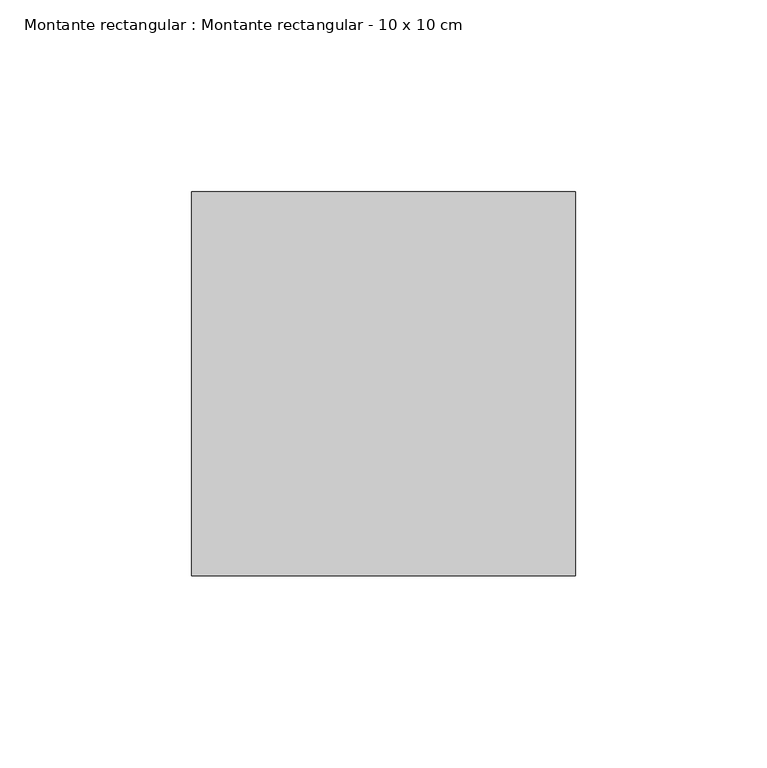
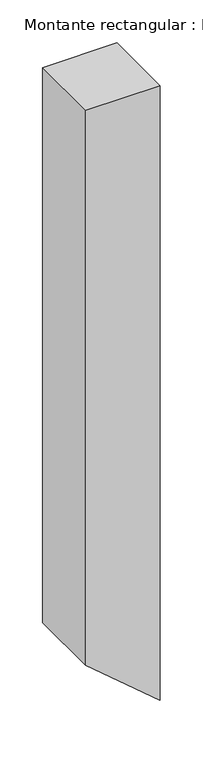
"""IFC4 building model written with IfcOpenShell, lengths in millimetres: member geometry, Montante rectangular : Montante rectangular - 10 x 10 cm."""

from ifc_helpers import new_model, si_unit, frame, origin, place, context, project, spatial, polyline, outline, extrude, source, transform, mapped, element, save


def montante_rectangular_montante_rectangular_10_x_10_cm_8c97cb68(model_context):
    return source(origin(), model_context, "Body", "SweptSolid", [
        extrude(outline(polyline([(0.0, 0.0), (0.0, -100.0), (-789.8805279, -100.0), (-875.0, 0.0), (0.0, 0.0)])), frame((0.0, -50.0, 0.0), z_axis=(0.0, 1.0, 0.0), x_axis=(0.0, 0.0, 1.0)), (0.0, 0.0, 1.0), 100.0),
    ])


if __name__ == "__main__":
    model = new_model("IFC4")
    model_context = context("Model", 3, world=origin())
    ifc_project = project(units=[si_unit("LENGTHUNIT", "METRE", prefix="MILLI")], contexts=[model_context])
    site = spatial("IfcSite", under=ifc_project)
    building = spatial("IfcBuilding", under=site)
    placement = place(None, origin())
    montante_rectangular_montante_rectangular_10_x_10_cm_shape = montante_rectangular_montante_rectangular_10_x_10_cm_8c97cb68(model_context)
    element("IfcMember", 1, ObjectType="Montante rectangular : Montante rectangular - 10 x 10 cm", at=placement, inside=building, context=model_context, shape_type="MappedRepresentation", body=[
        mapped(montante_rectangular_montante_rectangular_10_x_10_cm_shape, transform((0.0, 0.0, 0.0), x_axis=(1.0, 0.0, 0.0), y_axis=(0.0, 1.0, 0.0), z_axis=(0.0, 0.0, 1.0))),
    ])
    save(model, "model.ifc")
